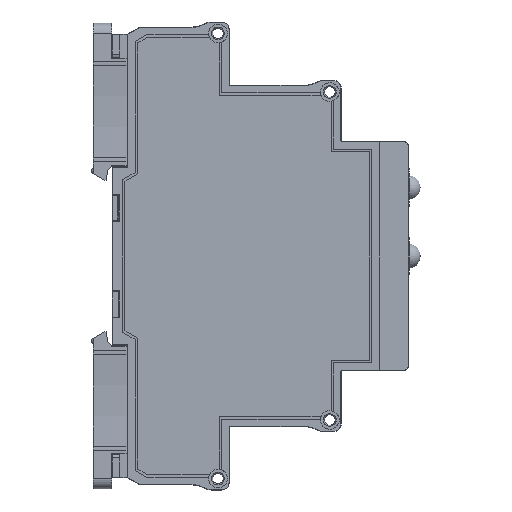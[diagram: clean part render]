
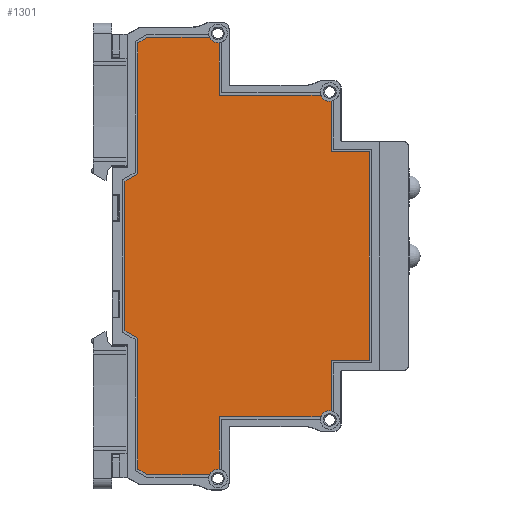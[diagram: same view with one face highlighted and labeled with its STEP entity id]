
A CAD part, front view. The second image highlights one B-rep face of the part: STEP entity #1301.
In plain terms, the highlighted planar face has unit normal (0, -1, 0) as drawn and (1, 0, 0) by its records, which use the part's own axes.
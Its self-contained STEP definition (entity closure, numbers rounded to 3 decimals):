
#1301=ADVANCED_FACE('',(#27865),#27867,.T.);
#27865=FACE_BOUND('',#27866,.T.);
#27866=EDGE_LOOP('',(#48759,#48760,#48761,#48762,#48763,#48764,#48765,#48766,#48767,
#48768,#48769,#48770,#48771,#48772,#48773,#48774,#48775,#48776,#48777,#48778,#48779,
#48780));
#27867=PLANE('',#27868);
#27868=AXIS2_PLACEMENT_3D('',#27869,#27870,#27871);
#27869=CARTESIAN_POINT('',(6.5,0.,0.));
#27870=DIRECTION('',(1.,0.,0.));
#27871=DIRECTION('',(0.,0.,-1.));
#48759=ORIENTED_EDGE('',*,*,#66331,.F.);
#48760=ORIENTED_EDGE('',*,*,#66332,.T.);
#48761=ORIENTED_EDGE('',*,*,#66249,.F.);
#48762=ORIENTED_EDGE('',*,*,#66333,.T.);
#48763=ORIENTED_EDGE('',*,*,#66334,.T.);
#48764=ORIENTED_EDGE('',*,*,#66335,.T.);
#48765=ORIENTED_EDGE('',*,*,#66336,.T.);
#48766=ORIENTED_EDGE('',*,*,#66337,.T.);
#48767=ORIENTED_EDGE('',*,*,#66233,.F.);
#48768=ORIENTED_EDGE('',*,*,#66338,.F.);
#48769=ORIENTED_EDGE('',*,*,#66339,.T.);
#48770=ORIENTED_EDGE('',*,*,#66243,.F.);
#48771=ORIENTED_EDGE('',*,*,#66340,.T.);
#48772=ORIENTED_EDGE('',*,*,#66341,.F.);
#48773=ORIENTED_EDGE('',*,*,#66342,.T.);
#48774=ORIENTED_EDGE('',*,*,#66343,.T.);
#48775=ORIENTED_EDGE('',*,*,#66344,.T.);
#48776=ORIENTED_EDGE('',*,*,#66345,.T.);
#48777=ORIENTED_EDGE('',*,*,#66346,.T.);
#48778=ORIENTED_EDGE('',*,*,#66347,.F.);
#48779=ORIENTED_EDGE('',*,*,#66348,.T.);
#48780=ORIENTED_EDGE('',*,*,#66259,.F.);
#66233=EDGE_CURVE('',#74627,#74612,#74629,.T.);
#66243=EDGE_CURVE('',#74647,#74632,#74649,.T.);
#66249=EDGE_CURVE('',#74659,#74661,#74662,.T.);
#66259=EDGE_CURVE('',#74679,#74681,#74682,.T.);
#66331=EDGE_CURVE('',#74820,#74679,#74821,.T.);
#66332=EDGE_CURVE('',#74820,#74661,#74822,.T.);
#66333=EDGE_CURVE('',#74659,#74823,#74824,.T.);
#66334=EDGE_CURVE('',#74823,#74825,#74826,.T.);
#66335=EDGE_CURVE('',#74825,#74827,#74828,.T.);
#66336=EDGE_CURVE('',#74827,#74829,#74830,.T.);
#66337=EDGE_CURVE('',#74829,#74612,#74831,.T.);
#66338=EDGE_CURVE('',#74832,#74627,#74833,.T.);
#66339=EDGE_CURVE('',#74832,#74632,#74834,.T.);
#66340=EDGE_CURVE('',#74647,#74835,#74836,.T.);
#66341=EDGE_CURVE('',#74837,#74835,#74838,.T.);
#66342=EDGE_CURVE('',#74837,#74839,#74840,.T.);
#66343=EDGE_CURVE('',#74839,#74841,#74842,.T.);
#66344=EDGE_CURVE('',#74841,#74843,#74844,.T.);
#66345=EDGE_CURVE('',#74843,#74845,#74846,.T.);
#66346=EDGE_CURVE('',#74845,#74847,#74848,.T.);
#66347=EDGE_CURVE('',#74849,#74847,#74850,.T.);
#66348=EDGE_CURVE('',#74849,#74681,#74851,.T.);
#74612=VERTEX_POINT('',#89195);
#74627=VERTEX_POINT('',#89228);
#74629=CIRCLE('',#89232,1.85);
#74632=VERTEX_POINT('',#89241);
#74647=VERTEX_POINT('',#89274);
#74649=CIRCLE('',#89278,1.85);
#74659=VERTEX_POINT('',#89302);
#74661=VERTEX_POINT('',#89306);
#74662=CIRCLE('',#89307,1.85);
#74679=VERTEX_POINT('',#89348);
#74681=VERTEX_POINT('',#89352);
#74682=CIRCLE('',#89353,1.85);
#74820=VERTEX_POINT('',#89657);
#74821=LINE('',#89658,#89659);
#74822=LINE('',#89661,#89662);
#74823=VERTEX_POINT('',#89664);
#74824=LINE('',#89665,#89666);
#74825=VERTEX_POINT('',#89668);
#74826=LINE('',#89669,#89670);
#74827=VERTEX_POINT('',#89672);
#74828=LINE('',#89673,#89674);
#74829=VERTEX_POINT('',#89676);
#74830=LINE('',#89677,#89678);
#74831=LINE('',#89680,#89681);
#74832=VERTEX_POINT('',#89683);
#74833=LINE('',#89684,#89685);
#74834=LINE('',#89687,#89688);
#74835=VERTEX_POINT('',#89690);
#74836=LINE('',#89691,#89692);
#74837=VERTEX_POINT('',#89694);
#74838=LINE('',#89695,#89696);
#74839=VERTEX_POINT('',#89698);
#74840=LINE('',#89699,#89700);
#74841=VERTEX_POINT('',#89702);
#74842=LINE('',#89703,#89704);
#74843=VERTEX_POINT('',#89706);
#74844=LINE('',#89707,#89708);
#74845=VERTEX_POINT('',#89710);
#74846=LINE('',#89711,#89712);
#74847=VERTEX_POINT('',#89714);
#74848=LINE('',#89715,#89716);
#74849=VERTEX_POINT('',#89718);
#74850=LINE('',#89719,#89720);
#74851=LINE('',#89722,#89723);
#89195=CARTESIAN_POINT('',(6.5,-30.541,38.985));
#89228=CARTESIAN_POINT('',(6.5,-31.7,37.015));
#89232=AXIS2_PLACEMENT_3D('',#89233,#89234,#89235);
#89233=CARTESIAN_POINT('',(6.5,-32.375,38.738));
#89234=DIRECTION('',(1.,0.,0.));
#89235=DIRECTION('',(0.,0.365,-0.931));
#89241=CARTESIAN_POINT('',(6.5,-42.103,16.897));
#89274=CARTESIAN_POINT('',(6.5,-43.2,14.953));
#89278=AXIS2_PLACEMENT_3D('',#89279,#89280,#89281);
#89279=CARTESIAN_POINT('',(6.5,-43.937,16.65));
#89280=DIRECTION('',(1.,0.,0.));
#89281=DIRECTION('',(0.,0.398,-0.917));
#89302=CARTESIAN_POINT('',(6.5,30.541,38.985));
#89306=CARTESIAN_POINT('',(6.5,31.7,37.015));
#89307=AXIS2_PLACEMENT_3D('',#89308,#89309,#89310);
#89308=CARTESIAN_POINT('',(6.5,32.375,38.738));
#89309=DIRECTION('',(1.,0.,0.));
#89310=DIRECTION('',(0.,-0.991,0.134));
#89348=CARTESIAN_POINT('',(6.5,42.103,16.897));
#89352=CARTESIAN_POINT('',(6.5,43.2,14.953));
#89353=AXIS2_PLACEMENT_3D('',#89354,#89355,#89356);
#89354=CARTESIAN_POINT('',(6.5,43.937,16.65));
#89355=DIRECTION('',(1.,0.,0.));
#89356=DIRECTION('',(0.,-0.991,0.134));
#89657=CARTESIAN_POINT('',(6.5,31.7,16.897));
#89658=CARTESIAN_POINT('',(6.5,31.7,16.897));
#89659=VECTOR('',#89660,1.);
#89660=DIRECTION('',(0.,1.,0.));
#89661=CARTESIAN_POINT('',(6.5,31.7,16.897));
#89662=VECTOR('',#89663,1.);
#89663=DIRECTION('',(0.,0.,1.));
#89664=CARTESIAN_POINT('',(6.5,20.6,38.985));
#89665=CARTESIAN_POINT('',(6.5,30.541,38.985));
#89666=VECTOR('',#89667,1.);
#89667=DIRECTION('',(0.,-1.,0.));
#89668=CARTESIAN_POINT('',(6.5,20.6,46.53));
#89669=CARTESIAN_POINT('',(6.5,20.6,38.985));
#89670=VECTOR('',#89671,1.);
#89671=DIRECTION('',(0.,0.,1.));
#89672=CARTESIAN_POINT('',(6.5,-20.6,46.53));
#89673=CARTESIAN_POINT('',(6.5,20.6,46.53));
#89674=VECTOR('',#89675,1.);
#89675=DIRECTION('',(0.,-1.,0.));
#89676=CARTESIAN_POINT('',(6.5,-20.6,38.985));
#89677=CARTESIAN_POINT('',(6.5,-20.6,46.53));
#89678=VECTOR('',#89679,1.);
#89679=DIRECTION('',(0.,0.,-1.));
#89680=CARTESIAN_POINT('',(6.5,-20.6,38.985));
#89681=VECTOR('',#89682,1.);
#89682=DIRECTION('',(0.,-1.,0.));
#89683=CARTESIAN_POINT('',(6.5,-31.7,16.897));
#89684=CARTESIAN_POINT('',(6.5,-31.7,16.897));
#89685=VECTOR('',#89686,1.);
#89686=DIRECTION('',(0.,0.,1.));
#89687=CARTESIAN_POINT('',(6.5,-31.7,16.897));
#89688=VECTOR('',#89689,1.);
#89689=DIRECTION('',(0.,-1.,0.));
#89690=CARTESIAN_POINT('',(6.5,-43.2,2.761));
#89691=CARTESIAN_POINT('',(6.5,-43.2,14.953));
#89692=VECTOR('',#89693,1.);
#89693=DIRECTION('',(0.,0.,-1.));
#89694=CARTESIAN_POINT('',(6.5,-42.068,0.8));
#89695=CARTESIAN_POINT('',(6.5,-42.068,0.8));
#89696=VECTOR('',#89697,1.);
#89697=DIRECTION('',(0.,-0.5,0.866));
#89698=CARTESIAN_POINT('',(6.5,-16.211,0.8));
#89699=CARTESIAN_POINT('',(6.5,-42.068,0.8));
#89700=VECTOR('',#89701,1.);
#89701=DIRECTION('',(0.,1.,0.));
#89702=CARTESIAN_POINT('',(6.5,-14.768,-1.7));
#89703=CARTESIAN_POINT('',(6.5,-16.211,0.8));
#89704=VECTOR('',#89705,1.);
#89705=DIRECTION('',(0.,0.5,-0.866));
#89706=CARTESIAN_POINT('',(6.5,14.768,-1.7));
#89707=CARTESIAN_POINT('',(6.5,-14.768,-1.7));
#89708=VECTOR('',#89709,1.);
#89709=DIRECTION('',(0.,1.,0.));
#89710=CARTESIAN_POINT('',(6.5,16.211,0.8));
#89711=CARTESIAN_POINT('',(6.5,14.768,-1.7));
#89712=VECTOR('',#89713,1.);
#89713=DIRECTION('',(0.,0.5,0.866));
#89714=CARTESIAN_POINT('',(6.5,42.068,0.8));
#89715=CARTESIAN_POINT('',(6.5,16.211,0.8));
#89716=VECTOR('',#89717,1.);
#89717=DIRECTION('',(0.,1.,0.));
#89718=CARTESIAN_POINT('',(6.5,43.2,2.761));
#89719=CARTESIAN_POINT('',(6.5,43.2,2.761));
#89720=VECTOR('',#89721,1.);
#89721=DIRECTION('',(0.,-0.5,-0.866));
#89722=CARTESIAN_POINT('',(6.5,43.2,2.761));
#89723=VECTOR('',#89724,1.);
#89724=DIRECTION('',(0.,0.,1.));
